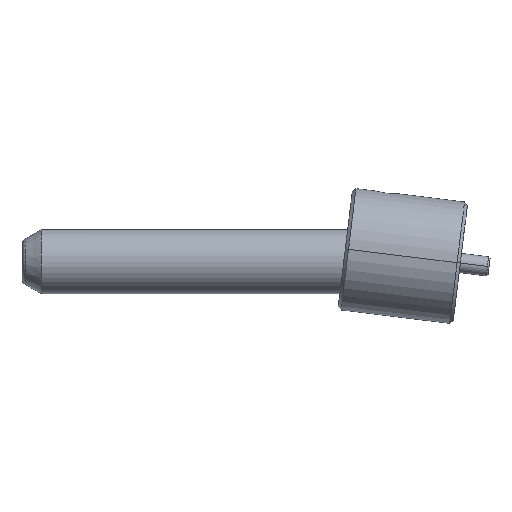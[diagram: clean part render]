
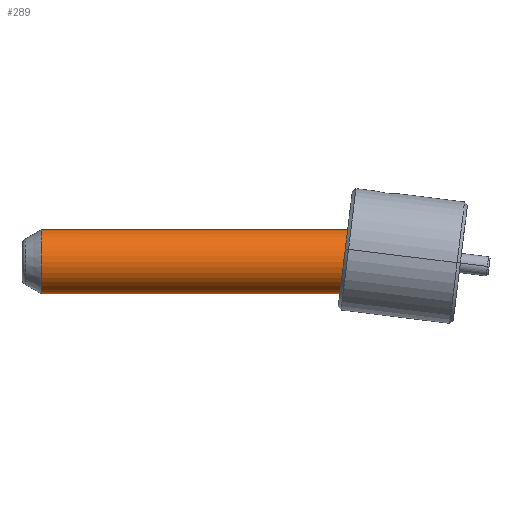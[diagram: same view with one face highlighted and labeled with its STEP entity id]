
A CAD part, left-side view. The second image highlights one B-rep face of the part: STEP entity #289.
In plain terms, the highlighted cylindrical face has radius 10 mm (diameter 20 mm), a partial arc.
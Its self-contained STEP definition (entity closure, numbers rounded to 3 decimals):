
#138=CARTESIAN_POINT('Vertex',(0.,-10.,-1.)) ;
#145=CARTESIAN_POINT('Vertex',(0.,10.,-1.)) ;
#165=CARTESIAN_POINT('Axis2P3D Location',(0.,0.,-1.)) ;
#182=CARTESIAN_POINT('Line Origine',(0.,10.,6.5)) ;
#186=CARTESIAN_POINT('Vertex',(0.,10.,-14.)) ;
#189=CARTESIAN_POINT('Line Origine',(0.,-10.,6.5)) ;
#193=CARTESIAN_POINT('Vertex',(0.,-10.,-124.)) ;
#200=CARTESIAN_POINT('Vertex',(0.,10.,-124.)) ;
#203=CARTESIAN_POINT('Line Origine',(0.,10.,6.5)) ;
#207=CARTESIAN_POINT('Vertex',(0.,10.,-20.)) ;
#245=CARTESIAN_POINT('Axis2P3D Location',(0.,0.,6.5)) ;
#250=CARTESIAN_POINT('Axis2P3D Location',(0.,0.,-124.)) ;
#256=CARTESIAN_POINT('Control Point',(0.,10.,-14.)) ;
#257=CARTESIAN_POINT('Control Point',(-0.251,10.,-14.)) ;
#258=CARTESIAN_POINT('Control Point',(-0.5,9.992,-14.026)) ;
#259=CARTESIAN_POINT('Control Point',(-0.746,9.977,-14.078)) ;
#260=CARTESIAN_POINT('Control Point',(-1.226,9.931,-14.233)) ;
#261=CARTESIAN_POINT('Control Point',(-1.662,9.865,-14.484)) ;
#262=CARTESIAN_POINT('Control Point',(-1.868,9.827,-14.632)) ;
#263=CARTESIAN_POINT('Control Point',(-2.183,9.761,-14.915)) ;
#264=CARTESIAN_POINT('Control Point',(-2.444,9.698,-15.248)) ;
#265=CARTESIAN_POINT('Control Point',(-2.539,9.673,-15.389)) ;
#266=CARTESIAN_POINT('Control Point',(-2.75,9.616,-15.754)) ;
#267=CARTESIAN_POINT('Control Point',(-2.893,9.573,-16.15)) ;
#268=CARTESIAN_POINT('Control Point',(-2.954,9.554,-16.393)) ;
#269=CARTESIAN_POINT('Control Point',(-3.047,9.525,-17.055)) ;
#270=CARTESIAN_POINT('Control Point',(-2.956,9.553,-17.724)) ;
#271=CARTESIAN_POINT('Control Point',(-2.827,9.595,-18.131)) ;
#272=CARTESIAN_POINT('Control Point',(-2.506,9.687,-18.737)) ;
#273=CARTESIAN_POINT('Control Point',(-2.037,9.793,-19.224)) ;
#274=CARTESIAN_POINT('Control Point',(-1.842,9.832,-19.388)) ;
#275=CARTESIAN_POINT('Control Point',(-1.388,9.911,-19.695)) ;
#276=CARTESIAN_POINT('Control Point',(-0.876,9.968,-19.892)) ;
#277=CARTESIAN_POINT('Control Point',(-0.588,9.989,-19.964)) ;
#278=CARTESIAN_POINT('Control Point',(-0.296,10.,-20.)) ;
#279=CARTESIAN_POINT('Control Point',(0.,10.,-20.)) ;
#166=DIRECTION('Axis2P3D Direction',(0.,0.,-1.)) ;
#183=DIRECTION('Vector Direction',(0.,0.,-1.)) ;
#190=DIRECTION('Vector Direction',(0.,0.,-1.)) ;
#204=DIRECTION('Vector Direction',(0.,0.,-1.)) ;
#246=DIRECTION('Axis2P3D Direction',(0.,0.,-1.)) ;
#247=DIRECTION('Axis2P3D XDirection',(0.,-1.,0.)) ;
#251=DIRECTION('Axis2P3D Direction',(0.,0.,-1.)) ;
#167=AXIS2_PLACEMENT_3D('Circle Axis2P3D',#165,#166,$) ;
#248=AXIS2_PLACEMENT_3D('Cylinder Axis2P3D',#245,#246,#247) ;
#252=AXIS2_PLACEMENT_3D('Circle Axis2P3D',#250,#251,$) ;
#282=ORIENTED_EDGE('',*,*,#209,.F.) ;
#283=ORIENTED_EDGE('',*,*,#254,.T.) ;
#284=ORIENTED_EDGE('',*,*,#195,.T.) ;
#285=ORIENTED_EDGE('',*,*,#169,.F.) ;
#286=ORIENTED_EDGE('',*,*,#188,.F.) ;
#287=ORIENTED_EDGE('',*,*,#280,.T.) ;
#184=VECTOR('Line Direction',#183,1.) ;
#191=VECTOR('Line Direction',#190,1.) ;
#205=VECTOR('Line Direction',#204,1.) ;
#289=ADVANCED_FACE('MANIFOLD_SOLID_BREP #385',(#288),#249,.T.) ;
#255=B_SPLINE_CURVE_WITH_KNOTS('',5,(#256,#257,#258,#259,#260,#261,#262,#263,#264,#265,#266,#267,#268,#269,#270,#271,#272,#273,#274,#275,#276,#277,#278,#279),.UNSPECIFIED.,.F.,.U.,(6,3,3,3,3,3,3,6),(0.,1.778,3.59,4.784,6.561,9.532,11.335,13.417),.UNSPECIFIED.) ;
#168=CIRCLE('generated circle',#167,10.) ;
#253=CIRCLE('generated circle',#252,10.) ;
#249=CYLINDRICAL_SURFACE('generated cylinder',#248,10.) ;
#169=EDGE_CURVE('',#146,#139,#168,.F.) ;
#188=EDGE_CURVE('',#187,#146,#185,.F.) ;
#195=EDGE_CURVE('',#194,#139,#192,.F.) ;
#209=EDGE_CURVE('',#201,#208,#206,.F.) ;
#254=EDGE_CURVE('',#201,#194,#253,.F.) ;
#280=EDGE_CURVE('',#187,#208,#255,.T.) ;
#281=EDGE_LOOP('',(#282,#283,#284,#285,#286,#287)) ;
#288=FACE_OUTER_BOUND('',#281,.T.) ;
#185=LINE('Line',#182,#184) ;
#192=LINE('Line',#189,#191) ;
#206=LINE('Line',#203,#205) ;
#139=VERTEX_POINT('',#138) ;
#146=VERTEX_POINT('',#145) ;
#187=VERTEX_POINT('',#186) ;
#194=VERTEX_POINT('',#193) ;
#201=VERTEX_POINT('',#200) ;
#208=VERTEX_POINT('',#207) ;
